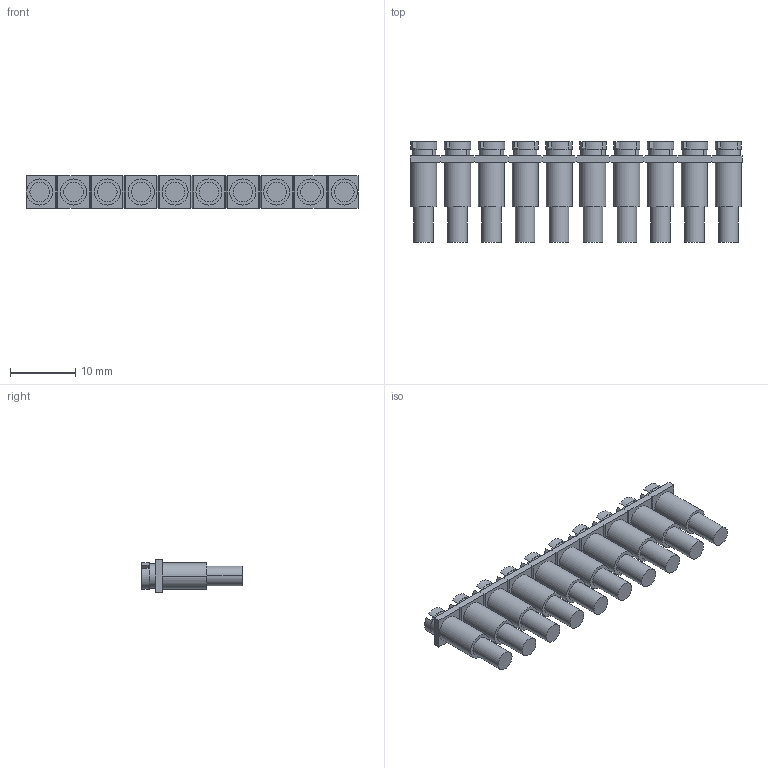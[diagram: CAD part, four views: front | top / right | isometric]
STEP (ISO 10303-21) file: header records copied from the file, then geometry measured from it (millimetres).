
FILE_DESCRIPTION( ('This file contains a STEP AP42 implementation' ,'as created by ZW3D STEP Interface translator.') ,'2;1' );
FILE_NAME( 'FBRIN_10_5.stp' ,'23 729.133110', (''), ('ZWCAD Software Co.'), 'Version 1.0', 'ZW3D to STEP translator', '' );
FILE_SCHEMA(('AUTOMOTIVE_DESIGN { 1 0 10303 214 1 1 1 1 }'));
Length unit declared in the file: millimetre
Products named in the file (2): 0; FBRN_10_5-select
Bounding box: 51 x 15.5 x 5 mm (x, y, z)
Volume: 1731.5 mm3; surface area: 2381.3 mm2
Topology: 1 solids, 1 shells, 220 faces, 534 edges, 356 vertices
Faces by surface type: plane 140, cylinder 80
Entity records: 6748 total; most frequent: DIRECTION 1175, CARTESIAN_POINT 1113, ORIENTED_EDGE 1068, EDGE_CURVE 534, AXIS2_PLACEMENT_3D 421, VERTEX_POINT 356, VECTOR 333, LINE 333
